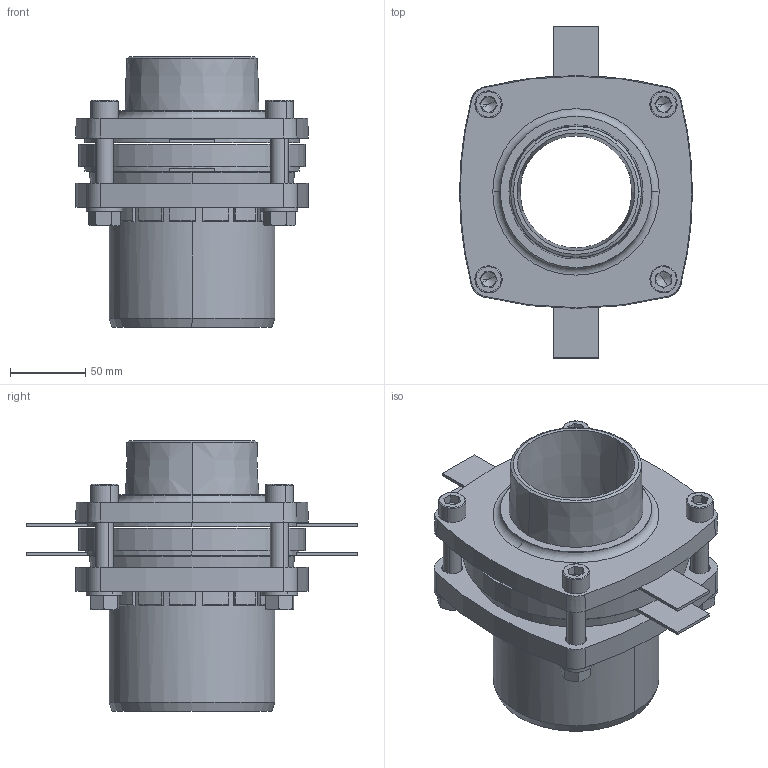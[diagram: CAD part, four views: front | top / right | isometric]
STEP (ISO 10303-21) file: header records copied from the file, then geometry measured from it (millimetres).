
FILE_DESCRIPTION (( 'STEP AP203' ), '1' );
FILE_NAME ('KP_C13-110-90M.step', '2011-08-08T12:01:43', ( '' ), ( '' ), 'SwSTEP 2.0', 'SolidWorks 2011', '' );
FILE_SCHEMA (( 'CONFIG_CONTROL_DESIGN' ));
Length unit declared in the file: millimetre
Products named in the file (1): KP_C13-110-90M
Bounding box: 154.3 x 220 x 179.5 mm (x, y, z)
Volume: 1123356.4 mm3; surface area: 249048.6 mm2
Topology: 1 solids, 3 shells, 504 faces, 1213 edges, 745 vertices
Faces by surface type: plane 229, cone 120, cylinder 114, torus 41
Entity records: 14897 total; most frequent: DIRECTION 2738, CARTESIAN_POINT 2727, ORIENTED_EDGE 2410, EDGE_CURVE 1205, AXIS2_PLACEMENT_3D 1076, VERTEX_POINT 745, VECTOR 586, LINE 586
